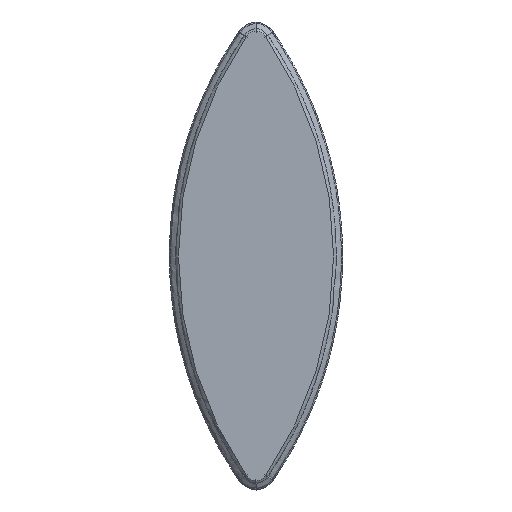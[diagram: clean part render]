
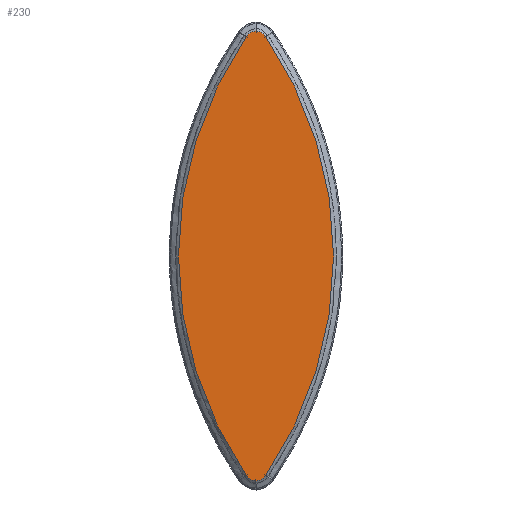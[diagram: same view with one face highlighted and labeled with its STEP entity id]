
A CAD part, front view. The second image highlights one B-rep face of the part: STEP entity #230.
In plain terms, the highlighted planar face has unit normal (0, -1, 0).
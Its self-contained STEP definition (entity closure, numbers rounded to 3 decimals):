
#26=PLANE('',#278);
#39=FACE_OUTER_BOUND('',#55,.T.);
#55=EDGE_LOOP('',(#194,#195,#196,#197,#198,#199));
#87=CIRCLE('',#272,5.);
#88=CIRCLE('',#273,150.);
#90=CIRCLE('',#279,5.);
#91=CIRCLE('',#280,5.);
#92=CIRCLE('',#281,150.);
#93=CIRCLE('',#282,5.);
#107=VERTEX_POINT('',#737);
#108=VERTEX_POINT('',#794);
#110=VERTEX_POINT('',#1703);
#113=VERTEX_POINT('',#1804);
#114=VERTEX_POINT('',#1806);
#115=VERTEX_POINT('',#1808);
#134=EDGE_CURVE('',#107,#108,#87,.T.);
#138=EDGE_CURVE('',#110,#107,#88,.T.);
#143=EDGE_CURVE('',#113,#110,#90,.T.);
#144=EDGE_CURVE('',#114,#113,#91,.T.);
#145=EDGE_CURVE('',#115,#114,#92,.T.);
#146=EDGE_CURVE('',#108,#115,#93,.T.);
#194=ORIENTED_EDGE('',*,*,#143,.F.);
#195=ORIENTED_EDGE('',*,*,#144,.F.);
#196=ORIENTED_EDGE('',*,*,#145,.F.);
#197=ORIENTED_EDGE('',*,*,#146,.F.);
#198=ORIENTED_EDGE('',*,*,#134,.F.);
#199=ORIENTED_EDGE('',*,*,#138,.F.);
#230=ADVANCED_FACE('',(#39),#26,.F.);
#272=AXIS2_PLACEMENT_3D('',#795,#313,#314);
#273=AXIS2_PLACEMENT_3D('',#1760,#315,#316);
#278=AXIS2_PLACEMENT_3D('',#1803,#325,#326);
#279=AXIS2_PLACEMENT_3D('',#1805,#327,#328);
#280=AXIS2_PLACEMENT_3D('',#1807,#329,#330);
#281=AXIS2_PLACEMENT_3D('',#1809,#331,#332);
#282=AXIS2_PLACEMENT_3D('',#1810,#333,#334);
#313=DIRECTION('center_axis',(0.,1.,0.));
#314=DIRECTION('ref_axis',(0.825,0.,-0.566));
#315=DIRECTION('center_axis',(0.,1.,0.));
#316=DIRECTION('ref_axis',(0.825,0.,0.566));
#325=DIRECTION('center_axis',(0.,1.,0.));
#326=DIRECTION('ref_axis',(0.,0.,1.));
#327=DIRECTION('center_axis',(0.,1.,0.));
#328=DIRECTION('ref_axis',(0.083,0.,0.997));
#329=DIRECTION('center_axis',(0.,1.,0.));
#330=DIRECTION('ref_axis',(-0.825,0.,0.566));
#331=DIRECTION('center_axis',(0.,1.,0.));
#332=DIRECTION('ref_axis',(-0.825,0.,-0.566));
#333=DIRECTION('center_axis',(0.,1.,0.));
#334=DIRECTION('ref_axis',(-0.083,0.,-0.997));
#737=CARTESIAN_POINT('',(3.71,0.,-174.828));
#794=CARTESIAN_POINT('',(0.,0.,-176.983));
#795=CARTESIAN_POINT('Origin',(-0.413,0.,-172.));
#1703=CARTESIAN_POINT('',(3.71,0.,-5.172));
#1760=CARTESIAN_POINT('Origin',(-120.,0.,-90.));
#1803=CARTESIAN_POINT('Origin',(0.,0.,-90.));
#1804=CARTESIAN_POINT('',(0.,0.,-3.017));
#1805=CARTESIAN_POINT('Origin',(-0.413,0.,-8.));
#1806=CARTESIAN_POINT('',(-3.71,0.,-5.172));
#1807=CARTESIAN_POINT('Origin',(0.413,0.,-8.));
#1808=CARTESIAN_POINT('',(-3.71,0.,-174.828));
#1809=CARTESIAN_POINT('Origin',(120.,0.,-90.));
#1810=CARTESIAN_POINT('Origin',(0.413,0.,-172.));
